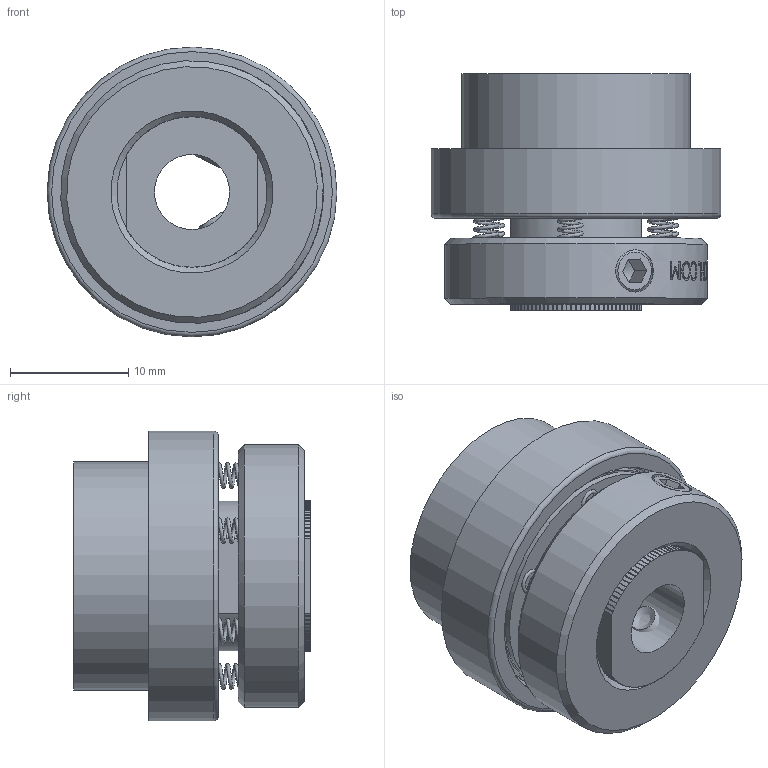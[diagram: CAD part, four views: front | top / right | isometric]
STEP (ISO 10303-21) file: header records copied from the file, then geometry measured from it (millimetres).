
FILE_DESCRIPTION((''),'2;1');
FILE_NAME('P:\Public\Organized 3D Clutch Assembly Files - Jessica\Slippers\Single Plate\Size 16\PFO16-4.stp','2013-01-24T09:48:47',('TodLob'),(''),'Autodesk Inventor 2011','Autodesk Inventor 2011','');
FILE_SCHEMA(('AUTOMOTIVE_DESIGN { 1 0 10303 214 1 1 1 1 }'));
Length unit declared in the file: inch
Products named in the file (11): PFO16-4; P1612-4; S1619; S1615; S1621; S1613; S1617-6F-2; S1614-0; P1609; Type A - Hexagon Socket Set Screw - Cup Point - Inch 8-32 UNC x 0.32; 4-6-4
Assembly tree (18 placements, depth 2):
  PFO16-4
    P1612-4
    S1619
    S1615  x2
    S1621  x2
    S1613
    S1617-6F-2
    S1614-0  x6
    P1609
    Type A - Hexagon Socket Set Screw - Cup Point - Inch 8-32 UNC x 0.32  x2
    4-6-4
Bounding box: 24.51 x 19.99 x 24.51 mm (x, y, z)
Volume: 5793.4 mm3; surface area: 8087.9 mm2
Topology: 18 solids, 18 shells, 612 faces, 1627 edges, 1067 vertices
Faces by surface type: plane 415, bspline 106, cylinder 66, cone 22, torus 3
Full cylindrical faces by diameter (mm): 2.261 x6, 3.569 x2, 4.166 x2, 6.35 x2, 9.525 x2, 11.176 x1, 12.7 x1, 12.802 x2, 13.487 x1, 17.475 x1, 19.304 x1, 19.761 x2, 20.066 x2, 21.165 x1, 22.225 x1, 23.495 x1, 24.511 x1
Entity records: 42562 total; most frequent: CARTESIAN_POINT 28552, ORIENTED_EDGE 2990, DIRECTION 2494, EDGE_CURVE 1495, VERTEX_POINT 1012, VECTOR 928, LINE 928, AXIS2_PLACEMENT_3D 783
